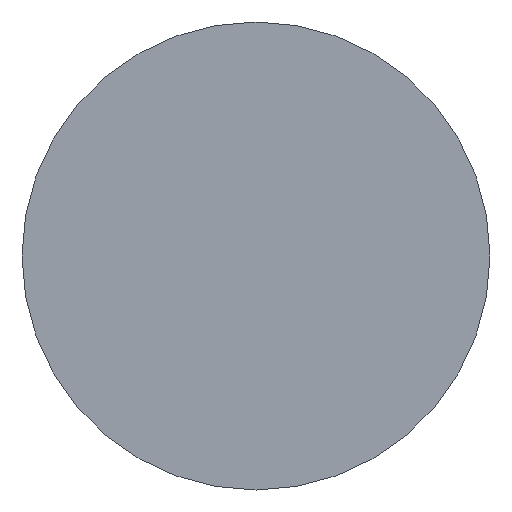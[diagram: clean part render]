
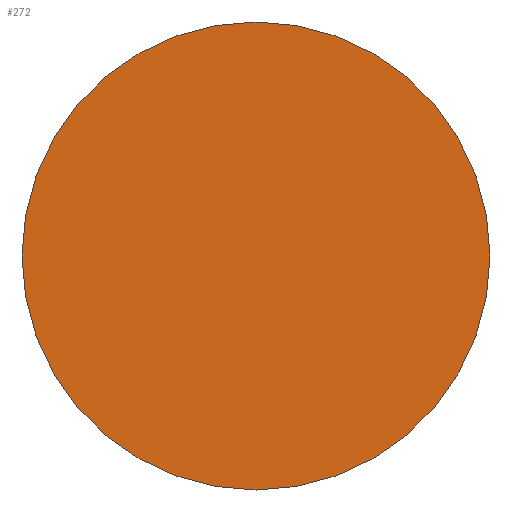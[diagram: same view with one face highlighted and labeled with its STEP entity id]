
A CAD part, front view. The second image highlights one B-rep face of the part: STEP entity #272.
In plain terms, the highlighted planar face has unit normal (0, -1, 0).
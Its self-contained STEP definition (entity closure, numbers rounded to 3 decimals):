
#59=CARTESIAN_POINT('',(0.,0.,0.));
#60=DIRECTION('',(0.,1.,0.));
#61=DIRECTION('',(1.,0.,0.));
#62=AXIS2_PLACEMENT_3D('',#59,#60,#61);
#68=CARTESIAN_POINT('',(0.,0.,0.));
#69=DIRECTION('',(0.,-1.,0.));
#70=DIRECTION('',(1.,0.,0.));
#71=AXIS2_PLACEMENT_3D('',#68,#69,#70);
#121=CARTESIAN_POINT('',(0.75,0.,0.));
#123=VERTEX_POINT('',#121);
#135=CARTESIAN_POINT('',(-0.75,0.,0.));
#137=VERTEX_POINT('',#135);
#263=CARTESIAN_POINT('',(0.,0.,0.));
#264=DIRECTION('',(0.,1.,0.));
#265=DIRECTION('',(1.,0.,0.));
#266=AXIS2_PLACEMENT_3D('',#263,#264,#265);
#267=PLANE('',#266);
#268=ORIENTED_EDGE('',*,*,#256,.F.);
#269=ORIENTED_EDGE('',*,*,#245,.T.);
#270=EDGE_LOOP('',(#268,#269));
#271=FACE_OUTER_BOUND('',#270,.F.);
#272=ADVANCED_FACE('',(#271),#267,.F.);
#63=CIRCLE('',#62,0.75);
#72=CIRCLE('',#71,0.75);
#245=EDGE_CURVE('',#123,#137,#63,.T.);
#256=EDGE_CURVE('',#123,#137,#72,.T.);
